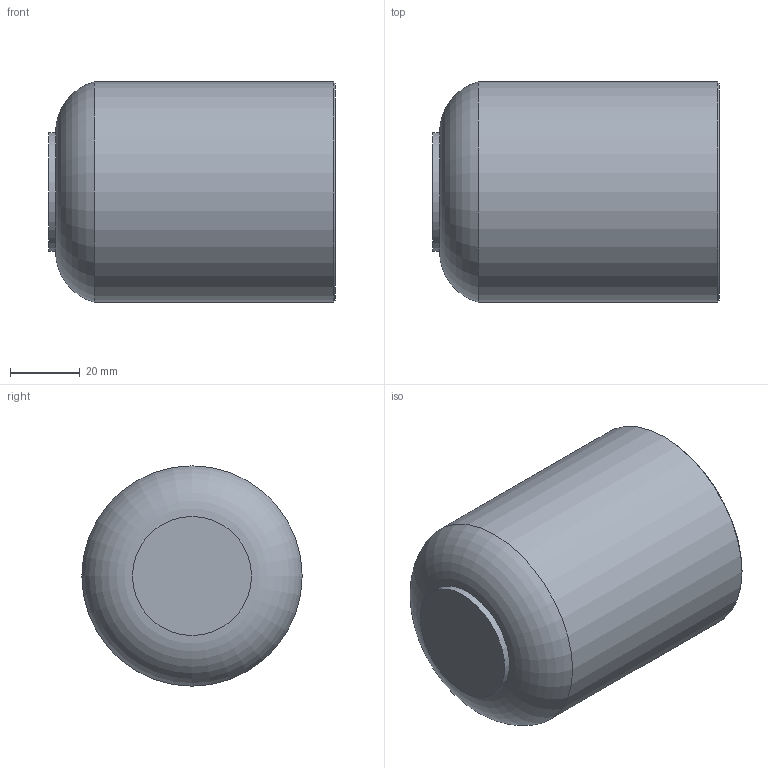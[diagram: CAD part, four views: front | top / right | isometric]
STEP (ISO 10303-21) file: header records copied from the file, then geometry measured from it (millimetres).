
FILE_DESCRIPTION(/* description */ ('Unknown'),/* implementation_level */ '2;1');
FILE_NAME(/* name */ 'CAP063B',/* time_stamp */ '2022-04-01T16:42:52+02:00',/* author */ ('Unknown'),/* organization */ ('Unknown'),/* preprocessor_version */ 'ST-DEVELOPER v18.1',/* originating_system */ 'Solid Edge',/* authorisation */ 'Unknown');
FILE_SCHEMA (('AUTOMOTIVE_DESIGN {1 0 10303 214 3 1 1}'));
Length unit declared in the file: millimetre
Products named in the file (1): CAP063B
Bounding box: 82 x 63 x 63 mm (x, y, z)
Volume: 91342.6 mm3; surface area: 32341.2 mm2
Topology: 1 solids, 1 shells, 9 faces, 15 edges, 9 vertices
Faces by surface type: plane 3, cylinder 3, torus 2, cone 1
Full cylindrical faces by diameter (mm): 34 x1, 51.4 x1, 63 x1
Entity records: 204 total; most frequent: DIRECTION 36, CARTESIAN_POINT 26, AXIS2_PLACEMENT_3D 18, ORIENTED_EDGE 16, EDGE_LOOP 16, FACE_BOUND 16, ADVANCED_FACE 9, EDGE_CURVE 8
